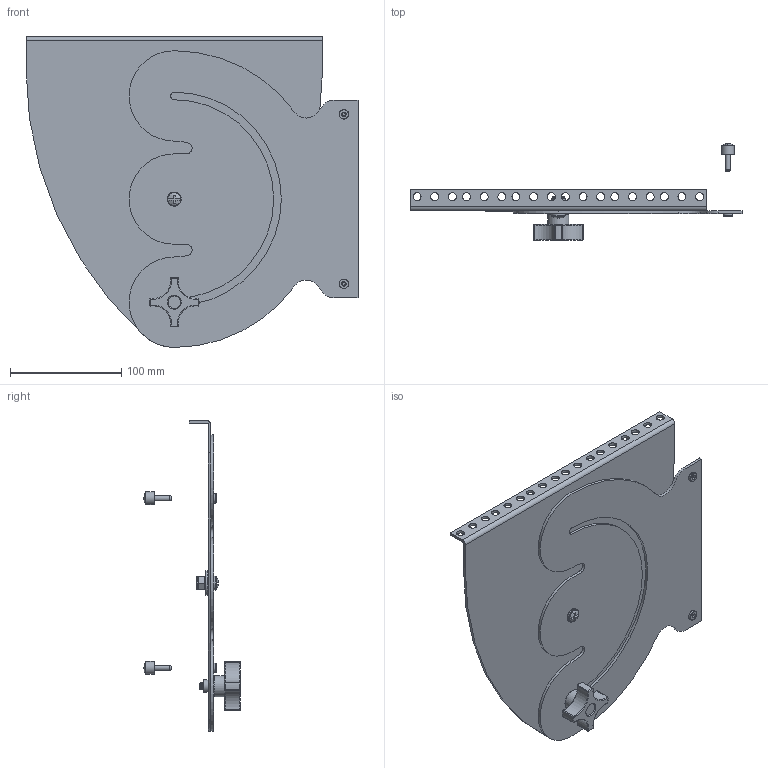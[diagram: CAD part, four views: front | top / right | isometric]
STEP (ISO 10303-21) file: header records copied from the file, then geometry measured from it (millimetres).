
FILE_DESCRIPTION( ( 'Unknown' ), '1' );
FILE_NAME( 'Q:/WEB DRAWINGS/STEP/HLP6UR.stp', 'Unknown', ( 'Unknown' ), ( 'Unknown' ), 'PSStep 17.0.49', 'Unknown', ' ' );
FILE_SCHEMA( ( 'AUTOMOTIVE_DESIGN { 1 0 10303 214 1 1 1 1 }' ) );
Length unit declared in the file: millimetre
Products named in the file (13): COM56965-2; NTS16849; COM56966-2; NTS16847; Assem1; KNB12003; NTS16526; SCS19070; ber00300; SCR107_DUT; WAF250055
Assembly tree (14 placements, depth 3):
  Assem1
    KNB12003
    NTS16526
    SCS19070
    ber00300
    SCR107_DUT  x2
    WAF250055
    COM56966-2
      NTS16847  x2
      COM56966-2
    COM56965-2
      NTS16849
      COM56965-2
Bounding box: 298.45 x 86.65 x 279.4 mm (x, y, z)
Volume: 265001.6 mm3; surface area: 216846.1 mm2
Topology: 12 solids, 12 shells, 268 faces, 641 edges, 404 vertices
Faces by surface type: cylinder 108, plane 86, cone 28, torus 24, sphere 16, bspline 6
Full cylindrical faces by diameter (mm): 4.039 x2, 4.763 x2, 4.976 x1, 5.387 x9, 6.198 x2, 6.35 x13, 6.477 x1, 7.137 x18, 8.636 x2, 9.5 x1, 9.525 x3, 9.652 x1, 9.83 x1, 11.049 x1, 11.176 x1, 11.43 x2, 11.887 x1, 12.7 x1, 19.05 x1, 22.403 x1
Entity records: 8204 total; most frequent: CARTESIAN_POINT 2502, DIRECTION 1158, ORIENTED_EDGE 888, AXIS2_PLACEMENT_3D 514, EDGE_CURVE 444, EDGE_LOOP 398, VERTEX_POINT 318, FACE_OUTER_BOUND 307
